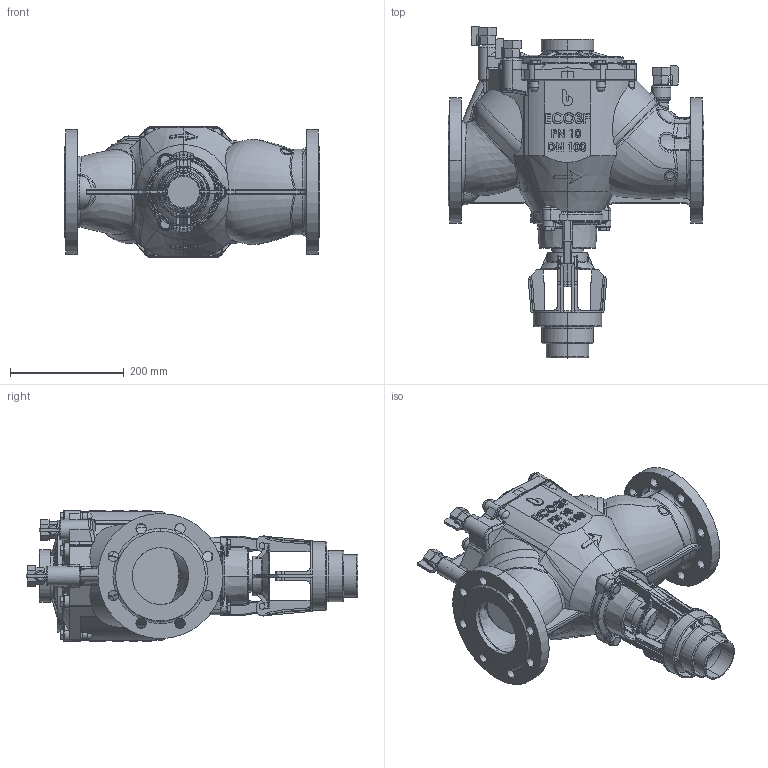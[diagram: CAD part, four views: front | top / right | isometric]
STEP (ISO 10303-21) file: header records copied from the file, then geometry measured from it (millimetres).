
FILE_DESCRIPTION (( 'STEP AP203' ), '1' );
FILE_NAME ('ECO3F.100.STEP', '2011-02-09T13:28:23', ( ' ' ), ( '' ), 'SwSTEP 2.0', 'SolidWorks 2009', '' );
FILE_SCHEMA (( 'CONFIG_CONTROL_DESIGN' ));
Products named in the file (1): ECO3F.100
Bounding box: 450 x 583.73 x 231.01 mm (x, y, z)
Volume: 7709903.5 mm3; surface area: 1109826.1 mm2
Topology: 1 solids, 32 shells, 2948 faces, 7628 edges, 4734 vertices
Faces by surface type: plane 958, bspline 673, cylinder 578, cone 393, torus 264, sphere 82
Entity records: 159643 total; most frequent: CARTESIAN_POINT 94552, ORIENTED_EDGE 15036, DIRECTION 11606, EDGE_CURVE 7518, VERTEX_POINT 4709, AXIS2_PLACEMENT_3D 4507, EDGE_LOOP 3115, FACE_OUTER_BOUND 2948
